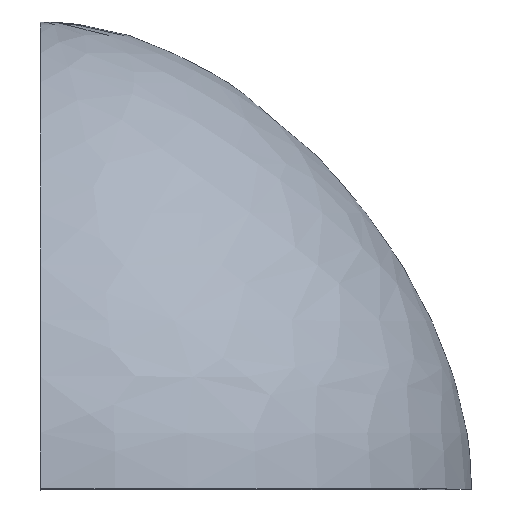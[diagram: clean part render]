
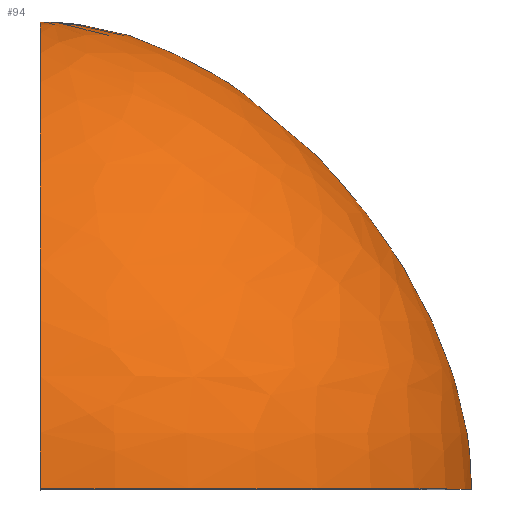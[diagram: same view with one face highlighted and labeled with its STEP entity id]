
A CAD part, top view. The second image highlights one B-rep face of the part: STEP entity #94.
In plain terms, the highlighted face is a revolution surface.
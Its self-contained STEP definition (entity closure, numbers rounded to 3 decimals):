
#52=CARTESIAN_POINT('Control Point',(0.,0.,96.)) ;
#53=CARTESIAN_POINT('Control Point',(0.,28.307,96.)) ;
#54=CARTESIAN_POINT('Control Point',(0.,57.845,82.615)) ;
#55=CARTESIAN_POINT('Control Point',(0.,88.615,55.845)) ;
#56=CARTESIAN_POINT('Control Point',(0.,104.,28.307)) ;
#57=CARTESIAN_POINT('Control Point',(0.,104.,0.)) ;
#58=CARTESIAN_POINT('Axis1P Location',(0.,0.,0.)) ;
#63=CARTESIAN_POINT('Control Point',(0.,0.,-96.)) ;
#64=CARTESIAN_POINT('Control Point',(0.,28.307,-96.)) ;
#65=CARTESIAN_POINT('Control Point',(0.,57.845,-82.615)) ;
#66=CARTESIAN_POINT('Control Point',(0.,88.615,-55.845)) ;
#67=CARTESIAN_POINT('Control Point',(0.,104.,-28.307)) ;
#68=CARTESIAN_POINT('Control Point',(0.,104.,0.)) ;
#69=CARTESIAN_POINT('Vertex',(0.,0.,-96.)) ;
#71=CARTESIAN_POINT('Vertex',(0.,104.,0.)) ;
#75=CARTESIAN_POINT('Control Point',(0.,0.,96.)) ;
#76=CARTESIAN_POINT('Control Point',(0.,28.307,96.)) ;
#77=CARTESIAN_POINT('Control Point',(0.,57.845,82.615)) ;
#78=CARTESIAN_POINT('Control Point',(0.,88.615,55.845)) ;
#79=CARTESIAN_POINT('Control Point',(0.,104.,28.307)) ;
#80=CARTESIAN_POINT('Control Point',(0.,104.,0.)) ;
#81=CARTESIAN_POINT('Vertex',(0.,0.,96.)) ;
#84=CARTESIAN_POINT('Axis2P3D Location',(0.,0.,0.)) ;
#59=DIRECTION('Axis1P Direction',(0.,1.,0.)) ;
#85=DIRECTION('Axis2P3D Direction',(0.,1.,0.)) ;
#86=AXIS2_PLACEMENT_3D('Circle Axis2P3D',#84,#85,$) ;
#90=ORIENTED_EDGE('',*,*,#73,.T.) ;
#91=ORIENTED_EDGE('',*,*,#83,.F.) ;
#92=ORIENTED_EDGE('',*,*,#88,.T.) ;
#94=ADVANCED_FACE('PartBody',(#93),#61,.T.) ;
#60=AXIS1_PLACEMENT('Revolution Surface Axis1P',#58,#59) ;
#51=B_SPLINE_CURVE_WITH_KNOTS('',5,(#52,#53,#54,#55,#56,#57),.UNSPECIFIED.,.F.,.U.,(6,6),(0.,141.534),.UNSPECIFIED.) ;
#62=B_SPLINE_CURVE_WITH_KNOTS('',5,(#63,#64,#65,#66,#67,#68),.UNSPECIFIED.,.F.,.U.,(6,6),(0.,141.534),.UNSPECIFIED.) ;
#74=B_SPLINE_CURVE_WITH_KNOTS('',5,(#75,#76,#77,#78,#79,#80),.UNSPECIFIED.,.F.,.U.,(6,6),(0.,141.534),.UNSPECIFIED.) ;
#87=CIRCLE('generated circle',#86,96.) ;
#73=EDGE_CURVE('',#70,#72,#62,.T.) ;
#83=EDGE_CURVE('',#82,#72,#74,.T.) ;
#88=EDGE_CURVE('',#82,#70,#87,.T.) ;
#89=EDGE_LOOP('',(#90,#91,#92)) ;
#93=FACE_OUTER_BOUND('',#89,.T.) ;
#61=SURFACE_OF_REVOLUTION('Surface of Revolution',#51,#60) ;
#70=VERTEX_POINT('',#69) ;
#72=VERTEX_POINT('',#71) ;
#82=VERTEX_POINT('',#81) ;
